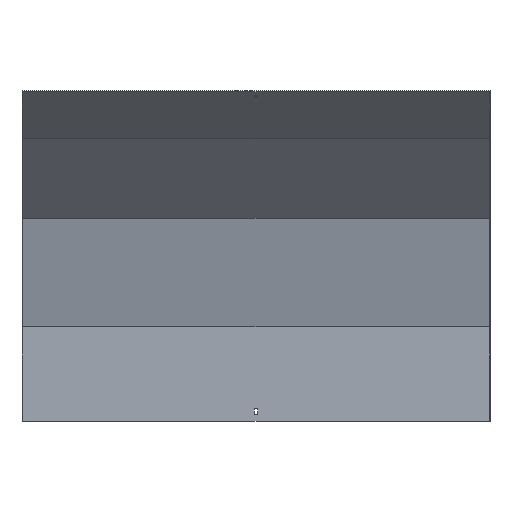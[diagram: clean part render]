
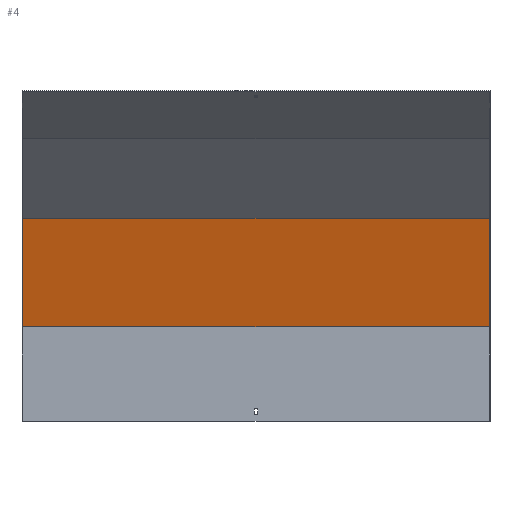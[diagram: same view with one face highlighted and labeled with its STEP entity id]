
A CAD part, front view. The second image highlights one B-rep face of the part: STEP entity #4.
In plain terms, the highlighted planar face has unit normal (0, -0.966, -0.259).
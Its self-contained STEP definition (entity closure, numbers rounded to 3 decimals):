
#4 = ADVANCED_FACE ( 'NONE', ( #862 ), #89, .T. ) ;
#14 = VECTOR ( 'NONE', #750, 1000. ) ;
#43 = CARTESIAN_POINT ( 'NONE',  ( 401.5, 18.5, 162.436 ) ) ;
#69 = VERTEX_POINT ( 'NONE', #175 ) ;
#88 = CARTESIAN_POINT ( 'NONE',  ( -400., -31.295, 348.273 ) ) ;
#89 = PLANE ( 'NONE',  #481 ) ;
#110 = EDGE_CURVE ( 'NONE', #813, #638, #356, .T. ) ;
#113 = DIRECTION ( 'NONE',  ( -1., 0., 0. ) ) ;
#140 = ORIENTED_EDGE ( 'NONE', *, *, #657, .T. ) ;
#148 = CARTESIAN_POINT ( 'NONE',  ( 401.5, -31.295, 348.273 ) ) ;
#175 = CARTESIAN_POINT ( 'NONE',  ( 400., 18.5, 162.436 ) ) ;
#192 = LINE ( 'NONE', #43, #649 ) ;
#240 = VECTOR ( 'NONE', #753, 1000. ) ;
#243 = CARTESIAN_POINT ( 'NONE',  ( 401.5, 17.87, 164.788 ) ) ;
#259 = CARTESIAN_POINT ( 'NONE',  ( -400., 18.5, 162.436 ) ) ;
#325 = VECTOR ( 'NONE', #984, 1000. ) ;
#348 = CARTESIAN_POINT ( 'NONE',  ( -400., 57.87, 15.506 ) ) ;
#356 = LINE ( 'NONE', #348, #14 ) ;
#379 = DIRECTION ( 'NONE',  ( 0., 0.259, -0.966 ) ) ;
#380 = CARTESIAN_POINT ( 'NONE',  ( 400., -31.295, 348.273 ) ) ;
#392 = EDGE_CURVE ( 'NONE', #69, #961, #619, .T. ) ;
#415 = ORIENTED_EDGE ( 'NONE', *, *, #392, .T. ) ;
#444 = EDGE_LOOP ( 'NONE', ( #939, #894, #415, #140 ) ) ;
#474 = DIRECTION ( 'NONE',  ( 0., -0.966, -0.259 ) ) ;
#481 = AXIS2_PLACEMENT_3D ( 'NONE', #243, #474, #379 ) ;
#518 = LINE ( 'NONE', #148, #240 ) ;
#619 = LINE ( 'NONE', #745, #325 ) ;
#638 = VERTEX_POINT ( 'NONE', #88 ) ;
#649 = VECTOR ( 'NONE', #113, 1000. ) ;
#657 = EDGE_CURVE ( 'NONE', #961, #638, #518, .T. ) ;
#745 = CARTESIAN_POINT ( 'NONE',  ( 400., 57.87, 15.506 ) ) ;
#750 = DIRECTION ( 'NONE',  ( 0., -0.259, 0.966 ) ) ;
#753 = DIRECTION ( 'NONE',  ( -1., 0., 0. ) ) ;
#802 = EDGE_CURVE ( 'NONE', #69, #813, #192, .T. ) ;
#813 = VERTEX_POINT ( 'NONE', #259 ) ;
#862 = FACE_OUTER_BOUND ( 'NONE', #444, .T. ) ;
#894 = ORIENTED_EDGE ( 'NONE', *, *, #802, .F. ) ;
#939 = ORIENTED_EDGE ( 'NONE', *, *, #110, .F. ) ;
#961 = VERTEX_POINT ( 'NONE', #380 ) ;
#984 = DIRECTION ( 'NONE',  ( 0., -0.259, 0.966 ) ) ;
